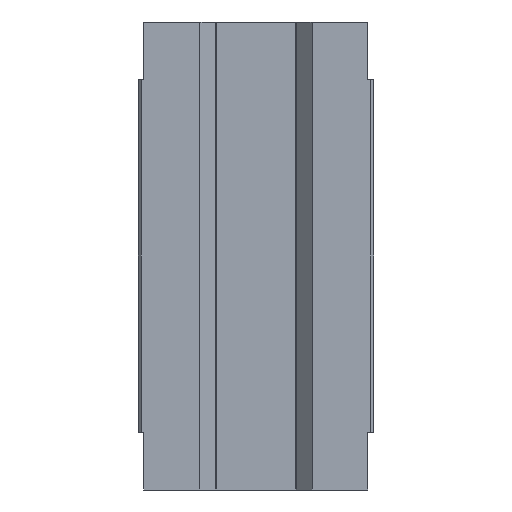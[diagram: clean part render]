
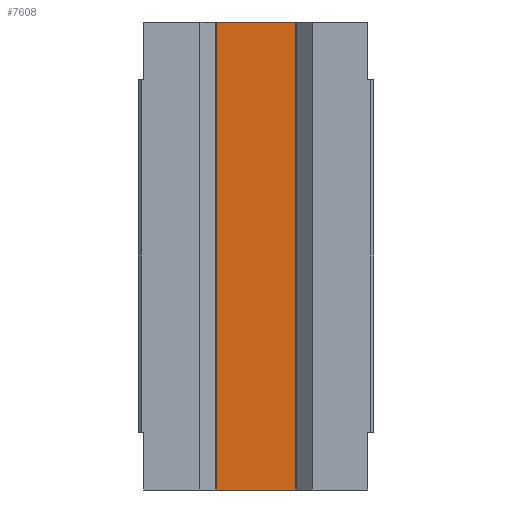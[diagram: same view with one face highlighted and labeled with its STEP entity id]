
A CAD part, front view. The second image highlights one B-rep face of the part: STEP entity #7608.
In plain terms, the highlighted planar face has unit normal (0, -1, 0).
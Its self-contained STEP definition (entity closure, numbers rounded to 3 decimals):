
#987 = VERTEX_POINT ( 'NONE', #3543 ) ;
#1596 = ORIENTED_EDGE ( 'NONE', *, *, #7238, .T. ) ;
#1716 = DIRECTION ( 'NONE',  ( 0., 0., -1. ) ) ;
#2272 = CARTESIAN_POINT ( 'NONE',  ( -14.51, 0., -85.6 ) ) ;
#2356 = AXIS2_PLACEMENT_3D ( 'NONE', #3195, #7955, #3962 ) ;
#2410 = CARTESIAN_POINT ( 'NONE',  ( 0., 0., -85.6 ) ) ;
#2692 = CARTESIAN_POINT ( 'NONE',  ( 14.51, 0., 85.6 ) ) ;
#2788 = CARTESIAN_POINT ( 'NONE',  ( 14.51, 0., -85.6 ) ) ;
#3195 = CARTESIAN_POINT ( 'NONE',  ( 15.42, 0., -85.6 ) ) ;
#3438 = DIRECTION ( 'NONE',  ( 0., 0., 1. ) ) ;
#3543 = CARTESIAN_POINT ( 'NONE',  ( -14.51, 0., -85.6 ) ) ;
#3962 = DIRECTION ( 'NONE',  ( -1., 0., 0. ) ) ;
#4372 = CARTESIAN_POINT ( 'NONE',  ( 14.51, 0., 85.6 ) ) ;
#5035 = VERTEX_POINT ( 'NONE', #4372 ) ;
#5122 = LINE ( 'NONE', #6212, #5152 ) ;
#5152 = VECTOR ( 'NONE', #8759, 1000. ) ;
#5281 = LINE ( 'NONE', #2410, #5707 ) ;
#5332 = VERTEX_POINT ( 'NONE', #6167 ) ;
#5352 = EDGE_LOOP ( 'NONE', ( #6230, #1596, #6717, #6638 ) ) ;
#5362 = EDGE_CURVE ( 'NONE', #5035, #5332, #5122, .T. ) ;
#5500 = FACE_OUTER_BOUND ( 'NONE', #5352, .T. ) ;
#5650 = EDGE_CURVE ( 'NONE', #5332, #987, #5674, .T. ) ;
#5674 = LINE ( 'NONE', #2272, #5704 ) ;
#5704 = VECTOR ( 'NONE', #1716, 1000. ) ;
#5707 = VECTOR ( 'NONE', #7374, 1000. ) ;
#6075 = PLANE ( 'NONE',  #2356 ) ;
#6165 = EDGE_CURVE ( 'NONE', #8848, #987, #5281, .T. ) ;
#6167 = CARTESIAN_POINT ( 'NONE',  ( -14.51, 0., 85.6 ) ) ;
#6212 = CARTESIAN_POINT ( 'NONE',  ( 15.42, 0., 85.6 ) ) ;
#6230 = ORIENTED_EDGE ( 'NONE', *, *, #6165, .F. ) ;
#6638 = ORIENTED_EDGE ( 'NONE', *, *, #5650, .T. ) ;
#6717 = ORIENTED_EDGE ( 'NONE', *, *, #5362, .T. ) ;
#7238 = EDGE_CURVE ( 'NONE', #8848, #5035, #8866, .T. ) ;
#7374 = DIRECTION ( 'NONE',  ( -1., 0., 0. ) ) ;
#7608 = ADVANCED_FACE ( 'NONE', ( #5500 ), #6075, .F. ) ;
#7955 = DIRECTION ( 'NONE',  ( 0., 1., 0. ) ) ;
#8759 = DIRECTION ( 'NONE',  ( -1., 0., 0. ) ) ;
#8848 = VERTEX_POINT ( 'NONE', #2788 ) ;
#8866 = LINE ( 'NONE', #2692, #8896 ) ;
#8896 = VECTOR ( 'NONE', #3438, 1000. ) ;
